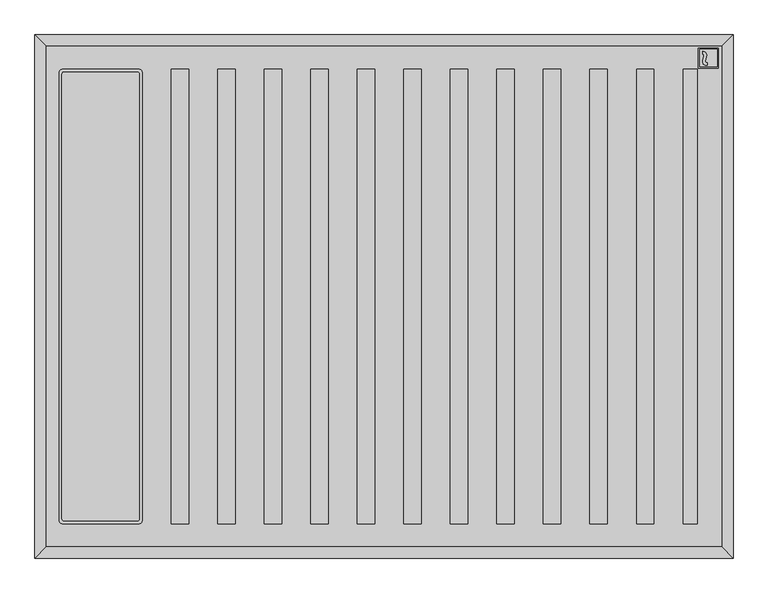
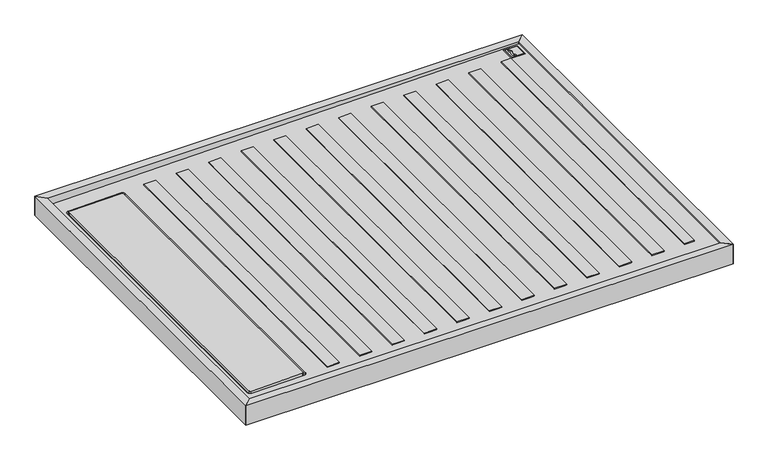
"""IFC4 building model written with IfcOpenShell, lengths in millimetres: flow terminal geometry, Sanitary_Shower-trays_Cosentino_Kador : Kador_130*125."""

from ifc_helpers import new_model, si_unit, point, frame, frame_2d, origin, origin_with_axes, place, context, project, spatial, polyline, circle_curve, ellipse_curve, trimmed, segment, composite_curve, outline, extrude, source, transform, mapped, element, save
from ifc_brep_helpers import plane_surface, cylinder_surface, revolved_surface, advanced_brep


def flow_terminal_ed776ef0(model_context):
    return source(origin(), model_context, "Body", "SolidModel", [
        advanced_brep(
        [(-420.5, -382.5, 33.9087277), (-420.5, 382.5, 33.9087277), (-424.0, 386.0, 33.8633095), (-550.0, 386.0, 32.2282535), (-553.5, 382.5, 32.1828353), (-553.5, -382.5, 32.1828353), (-550.0, -386.0, 32.2282535), (-424.0, -386.0, 33.8633095), (-424.0, -386.0, 24.9415704), (-550.0, -386.0, 24.9415704), (-553.5, -382.5, 24.9415704), (-553.5, 382.5, 24.9415704), (-550.0, 386.0, 24.9415704), (-424.0, 386.0, 24.9415704), (-420.5, 382.5, 24.9415704), (-420.5, -382.5, 24.9415704)],
        [
            (0, 1),
            (1, 2, ellipse_curve(frame((-424.0, 382.5, 33.8633095), z_axis=(-0.01297554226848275, 0.0, 0.9999158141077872), x_axis=(0.9999158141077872, 0.0, 0.012975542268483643)), 3.5002947, 3.5)),
            (2, 3),
            (3, 4, ellipse_curve(frame((-550.0, 382.5, 32.2282535), z_axis=(-0.01297554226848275, 0.0, 0.9999158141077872), x_axis=(0.9999158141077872, 0.0, 0.012975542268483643)), 3.5002947, 3.5)),
            (4, 5),
            (5, 6, ellipse_curve(frame((-550.0, -382.5, 32.2282535), z_axis=(-0.01297554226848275, 0.0, 0.9999158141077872), x_axis=(0.9999158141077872, 0.0, 0.012975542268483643)), 3.5002947, 3.5)),
            (6, 7),
            (7, 0, ellipse_curve(frame((-424.0, -382.5, 33.8633095), z_axis=(-0.01297554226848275, 0.0, 0.9999158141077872), x_axis=(0.9999158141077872, 0.0, 0.012975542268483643)), 3.5002947, 3.5)),
            (8, 9),
            (9, 10, circle_curve(frame((-550.0, -382.5, 24.9415704), z_axis=(0.0, 0.0, -1.0), x_axis=(1.0, 0.0, 0.0)), 3.5)),
            (10, 11),
            (11, 12, circle_curve(frame((-550.0, 382.5, 24.9415704), z_axis=(0.0, 0.0, -1.0), x_axis=(1.0, 0.0, 0.0)), 3.5)),
            (12, 13),
            (13, 14, circle_curve(frame((-424.0, 382.5, 24.9415704), z_axis=(0.0, 0.0, -1.0), x_axis=(1.0, 0.0, 0.0)), 3.5)),
            (14, 15),
            (15, 8, circle_curve(frame((-424.0, -382.5, 24.9415704), z_axis=(0.0, 0.0, -1.0), x_axis=(1.0, 0.0, 0.0)), 3.5)),
            (14, 1),
            (0, 15),
            (12, 3),
            (2, 13),
            (10, 5),
            (4, 11),
            (8, 7),
            (6, 9),
        ],
        [
            plane_surface(frame((581.0, 431.0, 46.9048274), z_axis=(-0.01297554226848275, 0.0, 0.9999158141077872), x_axis=(0.0, -1.0, 0.0))),
            plane_surface(frame((-420.5, -382.5, 24.9415704), z_axis=(0.0, 0.0, -1.0), x_axis=(0.0, -1.0, 0.0))),
            plane_surface(frame((-420.5, -382.5, 45.0), z_axis=(1.0, 0.0, 0.0), x_axis=(0.0, 0.0, -1.0))),
            plane_surface(frame((-424.0, 386.0, 45.0), z_axis=(0.0, 1.0, 0.0), x_axis=(0.0, 0.0, -1.0))),
            plane_surface(frame((-553.5, 382.5, 45.0), z_axis=(-1.0, 0.0, 0.0), x_axis=(0.0, 0.0, -1.0))),
            plane_surface(frame((-550.0, -386.0, 45.0), z_axis=(0.0, -1.0, 0.0), x_axis=(0.0, 0.0, -1.0))),
            cylinder_surface(frame((-424.0, -382.5, 24.9415704), z_axis=(0.0, 0.0, 1.0), x_axis=(1.0, 0.0, 0.0)), 3.5),
            cylinder_surface(frame((-424.0, 382.5, 24.9415704), z_axis=(0.0, 0.0, 1.0), x_axis=(1.0, 0.0, 0.0)), 3.5),
            cylinder_surface(frame((-550.0, 382.5, 24.9415704), z_axis=(0.0, 0.0, 1.0), x_axis=(1.0, 0.0, 0.0)), 3.5),
            cylinder_surface(frame((-550.0, -382.5, 24.9415704), z_axis=(0.0, 0.0, 1.0), x_axis=(1.0, 0.0, 0.0)), 3.5),
        ],
        [
            (0, [[1, 2, 3, 4, 5, 6, 7, 8]]),
            (1, [[9, 10, 11, 12, 13, 14, 15, 16]]),
            (2, [[-15, 17, -1, 18]]),
            (3, [[-13, 19, -3, 20]]),
            (4, [[-11, 21, -5, 22]]),
            (5, [[-9, 23, -7, 24]]),
            (6, [[-16, -18, -8, -23]]),
            (7, [[-14, -20, -2, -17]]),
            (8, [[-12, -22, -4, -19]]),
            (9, [[-10, -24, -6, -21]]),
        ],
    ),
        extrude(outline(polyline([(34.6159543, -366.0), (10.0, -366.0), (10.0, -336.0), (35.0052533, -336.0), (34.6159543, -366.0)])), frame((0.0, -391.0, 0.0), z_axis=(0.0, 1.0, 0.0), x_axis=(0.0, 0.0, 1.0)), (0.0, 0.0, 1.0), 782.0),
        extrude(outline(polyline([(35.6540851, -286.0), (10.0, -286.0), (10.0, -256.0), (36.0433841, -256.0), (35.6540851, -286.0)])), frame((0.0, -391.0, 0.0), z_axis=(0.0, 1.0, 0.0), x_axis=(0.0, 0.0, 1.0)), (0.0, 0.0, 1.0), 782.0),
        extrude(outline(polyline([(36.6922159, -206.0), (10.0, -206.0), (10.0, -176.0), (37.0815149, -176.0), (36.6922159, -206.0)])), frame((0.0, -391.0, 0.0), z_axis=(0.0, 1.0, 0.0), x_axis=(0.0, 0.0, 1.0)), (0.0, 0.0, 1.0), 782.0),
        extrude(outline(polyline([(37.7303466, -126.0), (10.0, -126.0), (10.0, -96.0), (38.1196457, -96.0), (37.7303466, -126.0)])), frame((0.0, -391.0, 0.0), z_axis=(0.0, 1.0, 0.0), x_axis=(0.0, 0.0, 1.0)), (0.0, 0.0, 1.0), 782.0),
        extrude(outline(polyline([(38.7684774, -46.0), (10.0, -46.0), (10.0, -16.0), (39.1577764, -16.0), (38.7684774, -46.0)])), frame((0.0, -391.0, 0.0), z_axis=(0.0, 1.0, 0.0), x_axis=(0.0, 0.0, 1.0)), (0.0, 0.0, 1.0), 782.0),
        extrude(outline(polyline([(39.8066082, 34.0), (10.0, 34.0), (10.0, 64.0), (40.1959072, 64.0), (39.8066082, 34.0)])), frame((0.0, -391.0, 0.0), z_axis=(0.0, 1.0, 0.0), x_axis=(0.0, 0.0, 1.0)), (0.0, 0.0, 1.0), 782.0),
        extrude(outline(polyline([(40.844739, 114.0), (10.0, 114.0), (10.0, 144.0), (41.234038, 144.0), (40.844739, 114.0)])), frame((0.0, -391.0, 0.0), z_axis=(0.0, 1.0, 0.0), x_axis=(0.0, 0.0, 1.0)), (0.0, 0.0, 1.0), 782.0),
        extrude(outline(polyline([(41.8828697, 194.0), (10.0, 194.0), (10.0, 224.0), (42.2721688, 224.0), (41.8828697, 194.0)])), frame((0.0, -391.0, 0.0), z_axis=(0.0, 1.0, 0.0), x_axis=(0.0, 0.0, 1.0)), (0.0, 0.0, 1.0), 782.0),
        extrude(outline(polyline([(42.9210005, 274.0), (10.0, 274.0), (10.0, 304.0), (43.3102996, 304.0), (42.9210005, 274.0)])), frame((0.0, -391.0, 0.0), z_axis=(0.0, 1.0, 0.0), x_axis=(0.0, 0.0, 1.0)), (0.0, 0.0, 1.0), 782.0),
        extrude(outline(polyline([(43.9591313, 354.0), (10.0, 354.0), (10.0, 384.0), (44.3484303, 384.0), (43.9591313, 354.0)])), frame((0.0, -391.0, 0.0), z_axis=(0.0, 1.0, 0.0), x_axis=(0.0, 0.0, 1.0)), (0.0, 0.0, 1.0), 782.0),
        extrude(outline(polyline([(44.9972621, 434.0), (10.0, 434.0), (10.0, 464.0), (45.3865611, 464.0), (44.9972621, 434.0)])), frame((0.0, -391.0, 0.0), z_axis=(0.0, 1.0, 0.0), x_axis=(0.0, 0.0, 1.0)), (0.0, 0.0, 1.0), 782.0),
        extrude(outline(polyline([(46.0353929, 514.0), (10.0, 514.0), (10.0, 538.4997055), (46.3533166, 538.4997055), (46.0353929, 514.0)])), frame((0.0, -391.0, 0.0), z_axis=(0.0, 1.0, 0.0), x_axis=(0.0, 0.0, 1.0)), (0.0, 0.0, 1.0), 782.0),
        extrude(outline(polyline([(572.4465505, 425.0929987), (572.4465505, 395.0929987), (542.4465505, 395.0929987), (542.4465505, 425.0929987), (572.4465505, 425.0929987)]), holes=[composite_curve([segment(trimmed(circle_curve(frame_2d((547.7589199, 414.8267757)), 6.7237776), [point((554.1850983, 412.8485396))], [point((548.2600314, 421.5318539))], True, "CARTESIAN"), True, "CONTINUOUS"), segment(polyline([(548.2600314, 421.5318539), (548.2600314, 416.8622316)]), True, "CONTINUOUS"), segment(trimmed(circle_curve(frame_2d((546.3194795, 414.019131)), 3.4422322), [point((548.2600314, 416.8622316))], [point((549.6348515, 413.0932417))], False, "CARTESIAN"), True, "CONTINUOUS"), segment(polyline([(549.6348515, 413.0932417), (547.6685309, 405.7548335)]), True, "CONTINUOUS"), segment(trimmed(circle_curve(frame_2d((553.9268061, 404.2134148)), 6.4453068), [point((547.6685309, 405.7548335))], [point((553.484187, 397.7833239))], True, "CARTESIAN"), True, "CONTINUOUS"), segment(polyline([(553.484187, 397.7833239), (555.5372593, 397.7185302), (555.5372593, 401.7403535), (554.5568828, 401.7561179)]), True, "CONTINUOUS"), segment(trimmed(circle_curve(frame_2d((554.590467, 404.3476489)), 2.5917486), [point((554.5568828, 401.7561179))], [point((552.0870301, 405.0184428))], False, "CARTESIAN"), True, "CONTINUOUS"), segment(polyline([(552.0870301, 405.0184428), (554.1850983, 412.8485396)]), True, "CONTINUOUS")], self_intersect=False)]), frame((0.0, 0.0, 30.3616701), z_axis=(0.0, 0.0, 1.0), x_axis=(1.0, 0.0, 0.0)), (0.0, 0.0, 1.0), 14.6383299),
        extrude(outline(polyline([(574.4465505, 427.0929987), (574.4465505, 393.0929987), (540.4465505, 393.0929987), (540.4465505, 427.0929987), (574.4465505, 427.0929987)]), holes=[polyline([(542.4465505, 425.0929987), (542.4465505, 395.0929987), (572.4465505, 395.0929987), (572.4465505, 425.0929987), (542.4465505, 425.0929987)])]), frame((0.0, 0.0, 30.3616701), z_axis=(0.0, 0.0, 1.0), x_axis=(1.0, 0.0, 0.0)), (0.0, 0.0, 1.0), 14.6383299),
        extrude(outline(composite_curve([segment(polyline([(554.1850983, 412.8485396), (552.0870301, 405.0184428)]), True, "CONTINUOUS"), segment(trimmed(circle_curve(frame_2d((554.590467, 404.3476489)), 2.5917486), [point((552.0870301, 405.0184428))], [point((554.5568828, 401.7561179))], True, "CARTESIAN"), True, "CONTINUOUS"), segment(polyline([(554.5568828, 401.7561179), (555.5372593, 401.7403535), (555.5372593, 397.7185302), (553.484187, 397.7833239)]), True, "CONTINUOUS"), segment(trimmed(circle_curve(frame_2d((553.9268061, 404.2134148)), 6.4453068), [point((553.484187, 397.7833239))], [point((547.6685309, 405.7548335))], False, "CARTESIAN"), True, "CONTINUOUS"), segment(polyline([(547.6685309, 405.7548335), (549.6348515, 413.0932417)]), True, "CONTINUOUS"), segment(trimmed(circle_curve(frame_2d((546.3194795, 414.019131)), 3.4422322), [point((549.6348515, 413.0932417))], [point((548.2600314, 416.8622316))], True, "CARTESIAN"), True, "CONTINUOUS"), segment(polyline([(548.2600314, 416.8622316), (548.2600314, 421.5318539)]), True, "CONTINUOUS"), segment(trimmed(circle_curve(frame_2d((547.7589199, 414.8267757)), 6.7237776), [point((548.2600314, 421.5318539))], [point((554.1850983, 412.8485396))], False, "CARTESIAN"), True, "CONTINUOUS")], self_intersect=False)), frame((0.0, 0.0, 30.3616701), z_axis=(0.0, 0.0, 1.0), x_axis=(1.0, 0.0, 0.0)), (0.0, 0.0, 1.0), 14.6383299),
        advanced_brep(
        [(-581.0, -431.0, 29.925985), (-581.0, -431.0, 10.0), (-570.0, -431.0, 10.0), (581.0, -431.0, 23.0), (581.0, -431.0, 45.0048345), (-581.0, 431.0, 29.925985), (581.0, 431.0, 45.0048345), (581.0, 431.0, 23.0), (-570.0, 431.0, 10.0), (-581.0, 431.0, 10.0), (-525.000878, 0.0, 10.5082438), (-435.000878, 0.0, 11.5247512), (-422.500878, 0.0, 22.0), (-426.7898918, 0.0, 20.0), (-533.2118642, 0.0, 20.0), (-537.500878, 0.0, 22.0), (-435.000878, 0.0, 20.0), (-525.000878, 0.0, 20.0), (-558.5, -384.5, 30.2179593), (-558.5, 384.5, 30.2179593), (-552.0, 391.0, 30.3023074), (-422.0, 391.0, 31.9892699), (-415.5, 384.5, 32.073618), (-415.5, -384.5, 32.073618), (-422.0, -391.0, 31.9892699), (-552.0, -391.0, 30.3023074), (-558.5, 384.5, 22.0), (-558.5, -384.5, 22.0), (-552.0, -391.0, 22.0), (-422.0, -391.0, 22.0), (-415.5, -384.5, 22.0), (-415.5, 384.5, 22.0), (-422.0, 391.0, 22.0), (-552.0, 391.0, 22.0)],
        [
            (0, 1),
            (1, 2),
            (2, 3),
            (3, 4),
            (4, 0),
            (5, 6),
            (6, 7),
            (7, 8),
            (8, 9),
            (9, 5),
            (0, 5),
            (9, 1),
            (8, 2),
            (7, 3),
            (10, 11, ellipse_curve(frame((-480.000878, 0.0, 11.0164975), z_axis=(-0.011293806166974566, 0.0, 0.9999362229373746), x_axis=(0.9999362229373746, 0.0, 0.01129380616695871)), 45.0028702, 45.0)),
            (11, 10, ellipse_curve(frame((-480.000878, 0.0, 11.0164975), z_axis=(-0.011293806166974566, 0.0, 0.9999362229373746), x_axis=(0.9999362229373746, 0.0, 0.01129380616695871)), 45.0028702, 45.0)),
            (12, 13),
            (13, 14, circle_curve(frame((-480.000878, 0.0, 20.0), z_axis=(0.0, 0.0, -1.0), x_axis=(-1.0, 0.0, 0.0)), 53.2109862)),
            (14, 15),
            (15, 12, circle_curve(frame((-480.000878, 0.0, 22.0), z_axis=(0.0, 0.0, 1.0), x_axis=(-1.0, 0.0, 0.0)), 57.5)),
            (12, 15, circle_curve(frame((-480.000878, 0.0, 22.0), z_axis=(0.0, 0.0, 1.0), x_axis=(-1.0, 0.0, 0.0)), 57.5)),
            (14, 13, circle_curve(frame((-480.000878, 0.0, 20.0), z_axis=(0.0, 0.0, -1.0), x_axis=(-1.0, 0.0, 0.0)), 53.2109862)),
            (13, 16),
            (16, 17, circle_curve(frame((-480.000878, 0.0, 20.0), z_axis=(0.0, 0.0, -1.0), x_axis=(-1.0, 0.0, 0.0)), 45.0)),
            (17, 14),
            (17, 16, circle_curve(frame((-480.000878, 0.0, 20.0), z_axis=(0.0, 0.0, -1.0), x_axis=(-1.0, 0.0, 0.0)), 45.0)),
            (16, 11),
            (10, 17),
            (6, 4),
            (18, 19),
            (19, 20, ellipse_curve(frame((-552.0, 384.5, 30.3023074), z_axis=(0.01297554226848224, 0.0, -0.9999158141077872), x_axis=(0.9999158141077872, 0.0, 0.012975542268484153)), 6.5005473, 6.5)),
            (20, 21),
            (21, 22, ellipse_curve(frame((-422.0, 384.5, 31.9892699), z_axis=(0.01297554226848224, 0.0, -0.9999158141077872), x_axis=(0.9999158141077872, 0.0, 0.012975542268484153)), 6.5005473, 6.5)),
            (22, 23),
            (23, 24, ellipse_curve(frame((-422.0, -384.5, 31.9892699), z_axis=(0.01297554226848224, 0.0, -0.9999158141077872), x_axis=(0.9999158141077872, 0.0, 0.012975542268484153)), 6.5005473, 6.5)),
            (24, 25),
            (25, 18, ellipse_curve(frame((-552.0, -384.5, 30.3023074), z_axis=(0.01297554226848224, 0.0, -0.9999158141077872), x_axis=(0.9999158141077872, 0.0, 0.012975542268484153)), 6.5005473, 6.5)),
            (26, 27),
            (27, 28, circle_curve(frame((-552.0, -384.5, 22.0), z_axis=(0.0, 0.0, 1.0), x_axis=(1.0, 0.0, 0.0)), 6.5)),
            (28, 29),
            (29, 30, circle_curve(frame((-422.0, -384.5, 22.0), z_axis=(0.0, 0.0, 1.0), x_axis=(1.0, 0.0, 0.0)), 6.5)),
            (30, 31),
            (31, 32, circle_curve(frame((-422.0, 384.5, 22.0), z_axis=(0.0, 0.0, 1.0), x_axis=(1.0, 0.0, 0.0)), 6.5)),
            (32, 33),
            (33, 26, circle_curve(frame((-552.0, 384.5, 22.0), z_axis=(0.0, 0.0, 1.0), x_axis=(1.0, 0.0, 0.0)), 6.5)),
            (26, 19),
            (18, 27),
            (25, 28),
            (24, 29),
            (23, 30),
            (22, 31),
            (21, 32),
            (20, 33),
        ],
        [
            plane_surface(frame((-581.0, -431.0, 10.0), z_axis=(0.0, -1.0, 0.0), x_axis=(0.0, 0.0, -1.0))),
            plane_surface(frame((-581.0, 431.0, 10.0), z_axis=(0.0, 1.0, 0.0), x_axis=(0.0, 0.0, 1.0))),
            plane_surface(frame((-581.0, -431.0, 29.925985), z_axis=(-1.0, 0.0, 0.0), x_axis=(0.0, 1.0, 0.0))),
            plane_surface(frame((-581.0, -431.0, 10.0), z_axis=(0.0, 0.0, -1.0), x_axis=(0.0, 1.0, 0.0))),
            plane_surface(frame((-570.0, -431.0, 10.0), z_axis=(0.011293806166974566, 0.0, -0.9999362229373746), x_axis=(0.0, 1.0, 0.0))),
            revolved_surface(polyline([(-537.500878, 0.0, 22.0), (-533.2118642, 0.0, 20.0)]), (-480.000878, 0.0, -304.8), (0.0, 0.0, 1.0)),
            plane_surface(frame((-480.000878, 0.0, 20.0), z_axis=(0.0, 0.0, 1.0), x_axis=(-1.0, 0.0, 0.0))),
            revolved_surface(polyline([(-525.0008780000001, 0.0, 20.0), (-525.0008780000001, 0.0, 10.508243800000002)]), (-480.000878, 0.0, -304.8), (0.0, 0.0, 1.0)),
            plane_surface(frame((581.0, -431.0, 23.0), z_axis=(1.0, 0.0, 0.0), x_axis=(0.0, 1.0, 0.0))),
            plane_surface(frame((581.0, -431.0, 45.0048345), z_axis=(-0.01297554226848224, 0.0, 0.9999158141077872), x_axis=(0.0, 1.0, 0.0))),
            plane_surface(frame((-558.5, 384.5, 22.0), z_axis=(0.0, 0.0, 1.0), x_axis=(0.0, 1.0, 0.0))),
            plane_surface(frame((-558.5, 384.5, 50.0), z_axis=(1.0, 0.0, 0.0), x_axis=(0.0, 0.0, -1.0))),
            revolved_surface(polyline([(-545.5, -384.5, 30.386655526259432), (-545.5, -384.5, 22.0)]), (-552.0, -384.5, 22.0), (0.0, 0.0, 1.0)),
            plane_surface(frame((-552.0, -391.0, 50.0), z_axis=(0.0, 1.0, 0.0), x_axis=(0.0, 0.0, -1.0))),
            revolved_surface(polyline([(-415.5, -384.5, 32.07361802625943), (-415.5, -384.5, 22.0)]), (-422.0, -384.5, 22.0), (0.0, 0.0, 1.0)),
            plane_surface(frame((-415.5, -384.5, 50.0), z_axis=(-1.0, 0.0, 0.0), x_axis=(0.0, 0.0, -1.0))),
            revolved_surface(polyline([(-415.5, 384.5, 32.07361802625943), (-415.5, 384.5, 22.0)]), (-422.0, 384.5, 22.0), (0.0, 0.0, 1.0)),
            plane_surface(frame((-422.0, 391.0, 50.0), z_axis=(0.0, -1.0, 0.0), x_axis=(0.0, 0.0, -1.0))),
            revolved_surface(polyline([(-545.5, 384.5, 30.386655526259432), (-545.5, 384.5, 22.0)]), (-552.0, 384.5, 22.0), (0.0, 0.0, 1.0)),
        ],
        [
            (0, [[1, 2, 3, 4, 5]]),
            (1, [[6, 7, 8, 9, 10]]),
            (2, [[-1, 11, -10, 12]]),
            (3, [[-2, -12, -9, 13]]),
            (4, [[-3, -13, -8, 14], [15, 16]]),
            (5, [[17, 18, 19, 20]]),
            (5, [[-17, 21, -19, 22]]),
            (6, [[-18, 23, 24, 25]]),
            (6, [[-22, -25, 26, -23]]),
            (7, [[-24, 27, -15, 28]]),
            (7, [[-26, -28, -16, -27]]),
            (8, [[-4, -14, -7, 29]]),
            (9, [[-5, -29, -6, -11], [30, 31, 32, 33, 34, 35, 36, 37]]),
            (10, [[38, 39, 40, 41, 42, 43, 44, 45], [-20, -21]]),
            (11, [[-38, 46, -30, 47]]),
            (12, [[-39, -47, -37, 48]]),
            (13, [[-40, -48, -36, 49]]),
            (14, [[-41, -49, -35, 50]]),
            (15, [[-42, -50, -34, 51]]),
            (16, [[-43, -51, -33, 52]]),
            (17, [[-44, -52, -32, 53]]),
            (18, [[-45, -53, -31, -46]]),
        ],
    ),
        extrude(outline(polyline([(-600.0, -450.0), (-600.0, 450.0), (-581.0, 431.0), (-581.0, -431.0), (-600.0, -450.0)])), origin_with_axes(), (0.0, 0.0, 1.0), 50.0),
        extrude(outline(polyline([(600.0, -450.0), (581.0, -431.0), (581.0, 431.0), (600.0, 450.0), (600.0, -450.0)])), origin_with_axes(), (0.0, 0.0, 1.0), 50.0),
        extrude(outline(polyline([(600.0, 450.0), (581.0, 431.0), (-581.0, 431.0), (-600.0, 450.0), (600.0, 450.0)])), origin_with_axes(), (0.0, 0.0, 1.0), 50.0),
        extrude(outline(polyline([(600.0, -450.0), (-600.0, -450.0), (-581.0, -431.0), (581.0, -431.0), (600.0, -450.0)])), origin_with_axes(), (0.0, 0.0, 1.0), 50.0),
    ])


if __name__ == "__main__":
    model = new_model("IFC4")
    model_context = context("Model", 3, world=origin())
    ifc_project = project(units=[si_unit("LENGTHUNIT", "METRE", prefix="MILLI")], contexts=[model_context])
    site = spatial("IfcSite", under=ifc_project)
    building = spatial("IfcBuilding", under=site)
    placement = place(None, origin())
    flow_terminal_shape = flow_terminal_ed776ef0(model_context)
    element("IfcFlowTerminal", 1, ObjectType="Sanitary_Shower-trays_Cosentino_Kador : Kador_130*125", at=placement, inside=building, context=model_context, shape_type="MappedRepresentation", body=[
        mapped(flow_terminal_shape, transform((0.0, 0.0, 0.0), x_axis=(1.0, 0.0, 0.0), y_axis=(0.0, 1.0, 0.0), z_axis=(0.0, 0.0, 1.0))),
    ])
    save(model, "model.ifc")
